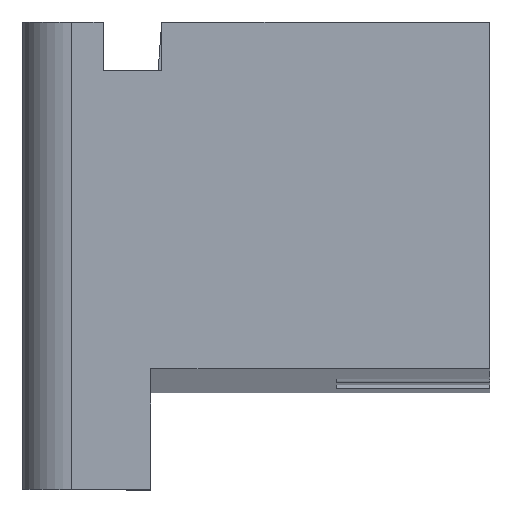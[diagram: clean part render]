
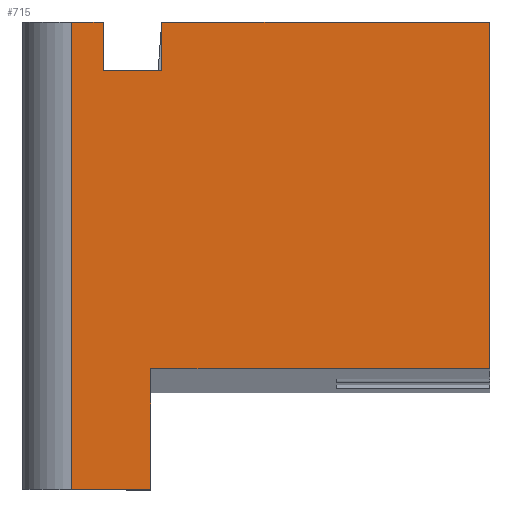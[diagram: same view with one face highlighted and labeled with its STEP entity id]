
A CAD part, top view. The second image highlights one B-rep face of the part: STEP entity #715.
In plain terms, the highlighted planar face has unit normal (0, 0, 1).
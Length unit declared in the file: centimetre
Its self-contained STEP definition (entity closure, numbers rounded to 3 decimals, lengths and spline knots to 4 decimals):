
#9 = DIRECTION ( 'NONE',  ( 0., 0., 1. ) ) ;
#40 = DIRECTION ( 'NONE',  ( 0., 1., 0. ) ) ;
#46 = VECTOR ( 'NONE', #820, 100. ) ;
#95 = ORIENTED_EDGE ( 'NONE', *, *, #927, .F. ) ;
#97 = ORIENTED_EDGE ( 'NONE', *, *, #457, .T. ) ;
#130 = LINE ( 'NONE', #548, #456 ) ;
#144 = CARTESIAN_POINT ( 'NONE',  ( 275.0775, 0., 1000. ) ) ;
#146 = VERTEX_POINT ( 'NONE', #485 ) ;
#158 = LINE ( 'NONE', #919, #1256 ) ;
#180 = EDGE_CURVE ( 'NONE', #477, #1373, #130, .T. ) ;
#183 = DIRECTION ( 'NONE',  ( 1., 0., 0. ) ) ;
#186 = LINE ( 'NONE', #609, #261 ) ;
#189 = VECTOR ( 'NONE', #183, 100. ) ;
#250 = VERTEX_POINT ( 'NONE', #1216 ) ;
#261 = VECTOR ( 'NONE', #1359, 100. ) ;
#275 = CARTESIAN_POINT ( 'NONE',  ( 105.5846, 0., 1000. ) ) ;
#308 = ORIENTED_EDGE ( 'NONE', *, *, #364, .T. ) ;
#333 = VERTEX_POINT ( 'NONE', #275 ) ;
#345 = DIRECTION ( 'NONE',  ( 1., 0., 0. ) ) ;
#364 = EDGE_CURVE ( 'NONE', #407, #250, #476, .T. ) ;
#402 = VECTOR ( 'NONE', #819, 100. ) ;
#407 = VERTEX_POINT ( 'NONE', #1114 ) ;
#414 = ORIENTED_EDGE ( 'NONE', *, *, #794, .T. ) ;
#456 = VECTOR ( 'NONE', #345, 100. ) ;
#457 = EDGE_CURVE ( 'NONE', #250, #333, #186, .T. ) ;
#459 = VECTOR ( 'NONE', #1387, 100. ) ;
#473 = CARTESIAN_POINT ( 'NONE',  ( 298.2062, 895.4688, 1000. ) ) ;
#476 = LINE ( 'NONE', #1021, #46 ) ;
#477 = VERTEX_POINT ( 'NONE', #1044 ) ;
#485 = CARTESIAN_POINT ( 'NONE',  ( 275.0775, 0., 1000. ) ) ;
#548 = CARTESIAN_POINT ( 'NONE',  ( 172.841, 895.4688, 1000. ) ) ;
#560 = PLANE ( 'NONE',  #995 ) ;
#593 = VECTOR ( 'NONE', #40, 100. ) ;
#609 = CARTESIAN_POINT ( 'NONE',  ( 105.5846, 0., 1000. ) ) ;
#618 = LINE ( 'NONE', #944, #402 ) ;
#635 = VERTEX_POINT ( 'NONE', #1165 ) ;
#645 = EDGE_CURVE ( 'NONE', #333, #146, #1042, .T. ) ;
#690 = DIRECTION ( 'NONE',  ( 0., 1., 0. ) ) ;
#711 = LINE ( 'NONE', #808, #899 ) ;
#715 = ADVANCED_FACE ( 'NONE', ( #1309 ), #560, .T. ) ;
#794 = EDGE_CURVE ( 'NONE', #1191, #635, #1082, .T. ) ;
#808 = CARTESIAN_POINT ( 'NONE',  ( 1000., 1000., 1000. ) ) ;
#819 = DIRECTION ( 'NONE',  ( 0., -1., 0. ) ) ;
#820 = DIRECTION ( 'NONE',  ( -1., 0., 0. ) ) ;
#838 = EDGE_CURVE ( 'NONE', #1373, #1189, #1006, .T. ) ;
#871 = ORIENTED_EDGE ( 'NONE', *, *, #1356, .T. ) ;
#872 = ORIENTED_EDGE ( 'NONE', *, *, #838, .F. ) ;
#873 = DIRECTION ( 'NONE',  ( 1., 0., 0. ) ) ;
#891 = DIRECTION ( 'NONE',  ( 0., -1., 0. ) ) ;
#899 = VECTOR ( 'NONE', #690, 100. ) ;
#900 = CARTESIAN_POINT ( 'NONE',  ( 298.2062, 895.4688, 1000. ) ) ;
#919 = CARTESIAN_POINT ( 'NONE',  ( 0., 1000., 1000. ) ) ;
#927 = EDGE_CURVE ( 'NONE', #1191, #146, #1012, .T. ) ;
#944 = CARTESIAN_POINT ( 'NONE',  ( 172.841, 895.4688, 1000. ) ) ;
#951 = CARTESIAN_POINT ( 'NONE',  ( 275.0775, 257.6471, 1000. ) ) ;
#955 = EDGE_LOOP ( 'NONE', ( #1239, #308, #97, #1299, #95, #414, #1030, #871, #872, #1360 ) ) ;
#983 = CARTESIAN_POINT ( 'NONE',  ( 0., 0., 1000. ) ) ;
#995 = AXIS2_PLACEMENT_3D ( 'NONE', #983, #9, #873 ) ;
#1003 = VERTEX_POINT ( 'NONE', #1007 ) ;
#1006 = LINE ( 'NONE', #473, #593 ) ;
#1007 = CARTESIAN_POINT ( 'NONE',  ( 1000., 1000., 1000. ) ) ;
#1011 = DIRECTION ( 'NONE',  ( -1., 0., 0. ) ) ;
#1012 = LINE ( 'NONE', #144, #1353 ) ;
#1021 = CARTESIAN_POINT ( 'NONE',  ( 0., 1000., 1000. ) ) ;
#1030 = ORIENTED_EDGE ( 'NONE', *, *, #1330, .T. ) ;
#1042 = LINE ( 'NONE', #1249, #189 ) ;
#1044 = CARTESIAN_POINT ( 'NONE',  ( 172.841, 895.4688, 1000. ) ) ;
#1059 = CARTESIAN_POINT ( 'NONE',  ( 298.2062, 1000., 1000. ) ) ;
#1082 = LINE ( 'NONE', #1179, #459 ) ;
#1103 = EDGE_CURVE ( 'NONE', #407, #477, #618, .T. ) ;
#1114 = CARTESIAN_POINT ( 'NONE',  ( 172.841, 1000., 1000. ) ) ;
#1165 = CARTESIAN_POINT ( 'NONE',  ( 1000., 257.6471, 1000. ) ) ;
#1179 = CARTESIAN_POINT ( 'NONE',  ( 275.0775, 257.6471, 1000. ) ) ;
#1189 = VERTEX_POINT ( 'NONE', #1059 ) ;
#1191 = VERTEX_POINT ( 'NONE', #951 ) ;
#1216 = CARTESIAN_POINT ( 'NONE',  ( 105.5846, 1000., 1000. ) ) ;
#1239 = ORIENTED_EDGE ( 'NONE', *, *, #1103, .F. ) ;
#1249 = CARTESIAN_POINT ( 'NONE',  ( 0., 0., 1000. ) ) ;
#1256 = VECTOR ( 'NONE', #1011, 100. ) ;
#1299 = ORIENTED_EDGE ( 'NONE', *, *, #645, .T. ) ;
#1309 = FACE_OUTER_BOUND ( 'NONE', #955, .T. ) ;
#1330 = EDGE_CURVE ( 'NONE', #635, #1003, #711, .T. ) ;
#1353 = VECTOR ( 'NONE', #891, 100. ) ;
#1356 = EDGE_CURVE ( 'NONE', #1003, #1189, #158, .T. ) ;
#1359 = DIRECTION ( 'NONE',  ( 0., -1., 0. ) ) ;
#1360 = ORIENTED_EDGE ( 'NONE', *, *, #180, .F. ) ;
#1373 = VERTEX_POINT ( 'NONE', #900 ) ;
#1387 = DIRECTION ( 'NONE',  ( 1., 0., 0. ) ) ;
